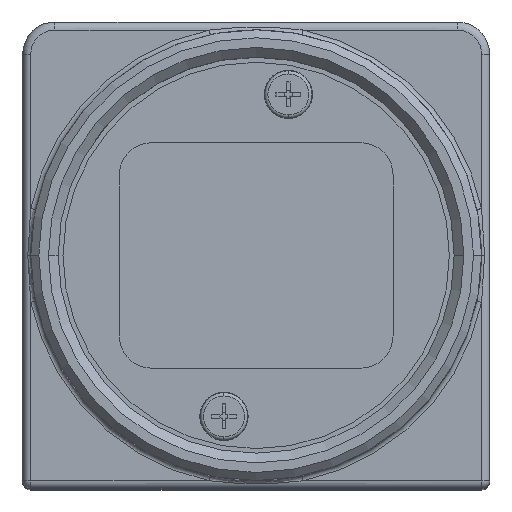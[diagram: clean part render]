
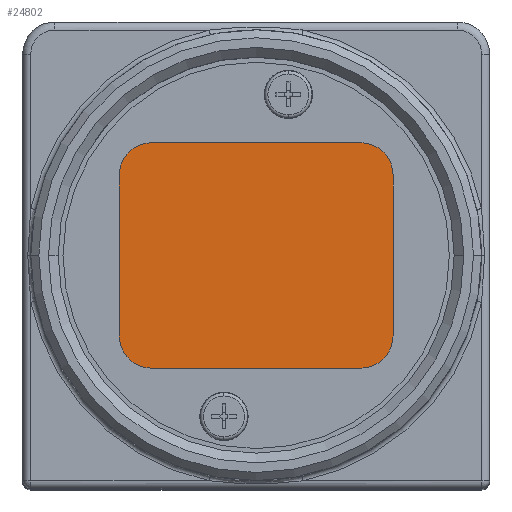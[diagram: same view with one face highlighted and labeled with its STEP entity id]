
A CAD part, top view. The second image highlights one B-rep face of the part: STEP entity #24802.
In plain terms, the highlighted planar face has unit normal (0, 0, -1).
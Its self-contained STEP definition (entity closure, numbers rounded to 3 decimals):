
#22540=CARTESIAN_POINT('',(-6.5,5.,1.6));
#22541=DIRECTION('',(0.,0.,1.));
#22542=DIRECTION('',(0.,1.,0.));
#22543=AXIS2_PLACEMENT_3D('',#22540,#22541,#22542);
#22548=CARTESIAN_POINT('',(-6.5,-5.,1.6));
#22549=DIRECTION('',(0.,0.,1.));
#22550=DIRECTION('',(-1.,0.,0.));
#22551=AXIS2_PLACEMENT_3D('',#22548,#22549,#22550);
#22556=CARTESIAN_POINT('',(6.5,-5.,1.6));
#22557=DIRECTION('',(0.,0.,1.));
#22558=DIRECTION('',(0.,-1.,0.));
#22559=AXIS2_PLACEMENT_3D('',#22556,#22557,#22558);
#22564=DIRECTION('',(0.,1.,0.));
#22565=VECTOR('',#22564,10.);
#22566=CARTESIAN_POINT('',(8.5,-5.,1.6));
#22567=LINE('',#22566,#22565);
#22571=CARTESIAN_POINT('',(6.5,5.,1.6));
#22572=DIRECTION('',(0.,0.,1.));
#22573=DIRECTION('',(1.,0.,0.));
#22574=AXIS2_PLACEMENT_3D('',#22571,#22572,#22573);
#22593=DIRECTION('',(-1.,0.,0.));
#22594=VECTOR('',#22593,13.);
#22595=CARTESIAN_POINT('',(6.5,7.,1.6));
#22596=LINE('',#22595,#22594);
#22614=DIRECTION('',(0.,1.,0.));
#22615=VECTOR('',#22614,10.);
#22616=CARTESIAN_POINT('',(-8.5,-5.,1.6));
#22617=LINE('',#22616,#22615);
#22642=DIRECTION('',(-1.,0.,0.));
#22643=VECTOR('',#22642,13.);
#22644=CARTESIAN_POINT('',(6.5,-7.,1.6));
#22645=LINE('',#22644,#22643);
#23476=CARTESIAN_POINT('',(8.5,5.,1.6));
#23477=VERTEX_POINT('',#23476);
#23478=CARTESIAN_POINT('',(8.5,-5.,1.6));
#23479=VERTEX_POINT('',#23478);
#23480=CARTESIAN_POINT('',(6.5,7.,1.6));
#23481=VERTEX_POINT('',#23480);
#23482=CARTESIAN_POINT('',(-6.5,7.,1.6));
#23483=CARTESIAN_POINT('',(-8.5,5.,1.6));
#23484=VERTEX_POINT('',#23482);
#23485=VERTEX_POINT('',#23483);
#23486=CARTESIAN_POINT('',(6.5,-7.,1.6));
#23487=VERTEX_POINT('',#23486);
#23488=CARTESIAN_POINT('',(-6.5,-7.,1.6));
#23489=VERTEX_POINT('',#23488);
#23490=CARTESIAN_POINT('',(-8.5,-5.,1.6));
#23491=VERTEX_POINT('',#23490);
#24781=CARTESIAN_POINT('',(0.,0.,1.6));
#24782=DIRECTION('',(0.,0.,1.));
#24783=DIRECTION('',(1.,0.,0.));
#24784=AXIS2_PLACEMENT_3D('',#24781,#24782,#24783);
#24785=PLANE('',#24784);
#24787=ORIENTED_EDGE('',*,*,#24786,.T.);
#24789=ORIENTED_EDGE('',*,*,#24788,.F.);
#24791=ORIENTED_EDGE('',*,*,#24790,.T.);
#24793=ORIENTED_EDGE('',*,*,#24792,.F.);
#24795=ORIENTED_EDGE('',*,*,#24794,.T.);
#24796=ORIENTED_EDGE('',*,*,#24759,.T.);
#24797=ORIENTED_EDGE('',*,*,#24772,.T.);
#24799=ORIENTED_EDGE('',*,*,#24798,.T.);
#24800=EDGE_LOOP('',(#24787,#24789,#24791,#24793,#24795,#24796,#24797,#24799));
#24801=FACE_OUTER_BOUND('',#24800,.F.);
#22544=CIRCLE('',#22543,2.);
#22552=CIRCLE('',#22551,2.);
#22560=CIRCLE('',#22559,2.);
#22575=CIRCLE('',#22574,2.);
#24759=EDGE_CURVE('',#23479,#23477,#22567,.T.);
#24772=EDGE_CURVE('',#23477,#23481,#22575,.T.);
#24786=EDGE_CURVE('',#23484,#23485,#22544,.T.);
#24788=EDGE_CURVE('',#23491,#23485,#22617,.T.);
#24790=EDGE_CURVE('',#23491,#23489,#22552,.T.);
#24792=EDGE_CURVE('',#23487,#23489,#22645,.T.);
#24794=EDGE_CURVE('',#23487,#23479,#22560,.T.);
#24798=EDGE_CURVE('',#23481,#23484,#22596,.T.);
#24802=ADVANCED_FACE('',(#24801),#24785,.F.);
